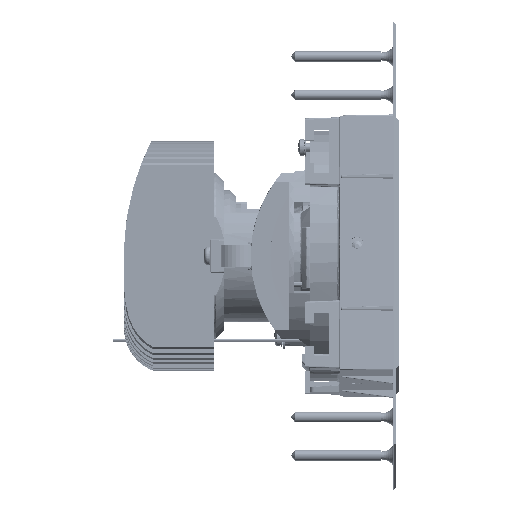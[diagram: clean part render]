
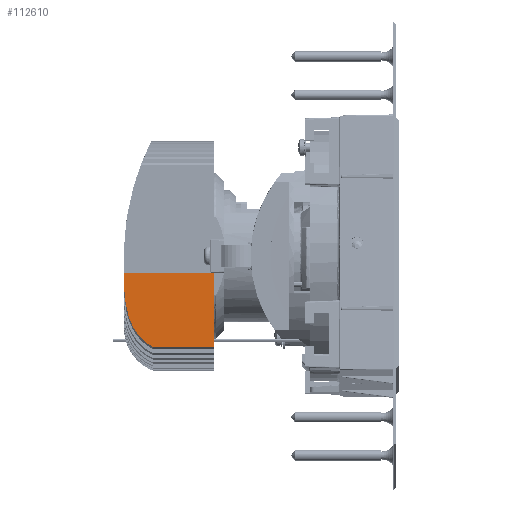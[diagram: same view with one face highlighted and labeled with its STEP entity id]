
A CAD part, front view. The second image highlights one B-rep face of the part: STEP entity #112610.
In plain terms, the highlighted planar face has unit normal (0, -1, 0).
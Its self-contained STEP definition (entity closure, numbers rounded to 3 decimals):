
#106429=CARTESIAN_POINT('Vertex',(53.25,-13.7,-108.9)) ;
#106432=CARTESIAN_POINT('Line Origine',(53.75,-13.7,-108.9)) ;
#106436=CARTESIAN_POINT('Vertex',(54.25,-13.7,-108.9)) ;
#112529=CARTESIAN_POINT('Axis2P3D Location',(54.25,-13.7,-153.4)) ;
#112534=CARTESIAN_POINT('Line Origine',(38.75,-13.7,-108.9)) ;
#112538=CARTESIAN_POINT('Vertex',(24.25,-13.7,-108.9)) ;
#112541=CARTESIAN_POINT('Line Origine',(24.25,-13.7,-109.222)) ;
#112545=CARTESIAN_POINT('Vertex',(24.25,-13.7,-109.545)) ;
#112549=CARTESIAN_POINT('Control Point',(24.25,-13.7,-109.545)) ;
#112550=CARTESIAN_POINT('Control Point',(24.25,-13.7,-110.401)) ;
#112551=CARTESIAN_POINT('Control Point',(24.254,-13.7,-111.252)) ;
#112552=CARTESIAN_POINT('Control Point',(24.264,-13.7,-112.095)) ;
#112553=CARTESIAN_POINT('Control Point',(24.308,-13.7,-113.928)) ;
#112554=CARTESIAN_POINT('Control Point',(24.41,-13.7,-115.737)) ;
#112555=CARTESIAN_POINT('Control Point',(24.487,-13.7,-116.703)) ;
#112556=CARTESIAN_POINT('Control Point',(24.649,-13.7,-118.205)) ;
#112557=CARTESIAN_POINT('Control Point',(24.886,-13.7,-119.681)) ;
#112558=CARTESIAN_POINT('Control Point',(24.982,-13.7,-120.212)) ;
#112559=CARTESIAN_POINT('Control Point',(25.189,-13.7,-121.22)) ;
#112560=CARTESIAN_POINT('Control Point',(25.439,-13.7,-122.212)) ;
#112561=CARTESIAN_POINT('Control Point',(25.569,-13.7,-122.682)) ;
#112562=CARTESIAN_POINT('Control Point',(25.845,-13.7,-123.592)) ;
#112563=CARTESIAN_POINT('Control Point',(26.164,-13.7,-124.478)) ;
#112564=CARTESIAN_POINT('Control Point',(26.331,-13.7,-124.906)) ;
#112565=CARTESIAN_POINT('Control Point',(26.76,-13.7,-125.927)) ;
#112566=CARTESIAN_POINT('Control Point',(27.247,-13.7,-126.898)) ;
#112567=CARTESIAN_POINT('Control Point',(27.555,-13.7,-127.45)) ;
#112568=CARTESIAN_POINT('Control Point',(28.2,-13.7,-128.499)) ;
#112569=CARTESIAN_POINT('Control Point',(28.912,-13.7,-129.457)) ;
#112570=CARTESIAN_POINT('Control Point',(29.282,-13.7,-129.909)) ;
#112571=CARTESIAN_POINT('Control Point',(30.049,-13.7,-130.765)) ;
#112572=CARTESIAN_POINT('Control Point',(30.874,-13.7,-131.526)) ;
#112573=CARTESIAN_POINT('Control Point',(31.299,-13.7,-131.882)) ;
#112574=CARTESIAN_POINT('Control Point',(32.053,-13.7,-132.454)) ;
#112575=CARTESIAN_POINT('Control Point',(32.839,-13.7,-132.95)) ;
#112576=CARTESIAN_POINT('Control Point',(33.176,-13.7,-133.146)) ;
#112577=CARTESIAN_POINT('Control Point',(33.518,-13.7,-133.327)) ;
#112578=CARTESIAN_POINT('Control Point',(33.865,-13.7,-133.496)) ;
#112579=CARTESIAN_POINT('Vertex',(33.865,-13.7,-133.496)) ;
#112582=CARTESIAN_POINT('Line Origine',(44.057,-13.7,-133.496)) ;
#112586=CARTESIAN_POINT('Vertex',(54.25,-13.7,-133.496)) ;
#112589=CARTESIAN_POINT('Line Origine',(54.25,-13.7,-125.831)) ;
#112593=CARTESIAN_POINT('Vertex',(54.25,-13.7,-118.165)) ;
#112596=CARTESIAN_POINT('Line Origine',(54.25,-13.7,-113.533)) ;
#106433=DIRECTION('Vector Direction',(-1.,0.,0.)) ;
#112530=DIRECTION('Axis2P3D Direction',(0.,-1.,0.)) ;
#112531=DIRECTION('Axis2P3D XDirection',(0.,0.,1.)) ;
#112535=DIRECTION('Vector Direction',(-1.,0.,0.)) ;
#112542=DIRECTION('Vector Direction',(0.,0.,1.)) ;
#112583=DIRECTION('Vector Direction',(-1.,0.,0.)) ;
#112590=DIRECTION('Vector Direction',(0.,0.,1.)) ;
#112597=DIRECTION('Vector Direction',(0.,0.,-1.)) ;
#112532=AXIS2_PLACEMENT_3D('Plane Axis2P3D',#112529,#112530,#112531) ;
#112602=ORIENTED_EDGE('',*,*,#112540,.T.) ;
#112603=ORIENTED_EDGE('',*,*,#112547,.F.) ;
#112604=ORIENTED_EDGE('',*,*,#112581,.T.) ;
#112605=ORIENTED_EDGE('',*,*,#112588,.F.) ;
#112606=ORIENTED_EDGE('',*,*,#112595,.T.) ;
#112607=ORIENTED_EDGE('',*,*,#112600,.F.) ;
#112608=ORIENTED_EDGE('',*,*,#106438,.T.) ;
#106434=VECTOR('Line Direction',#106433,1.) ;
#112536=VECTOR('Line Direction',#112535,1.) ;
#112543=VECTOR('Line Direction',#112542,1.) ;
#112584=VECTOR('Line Direction',#112583,1.) ;
#112591=VECTOR('Line Direction',#112590,1.) ;
#112598=VECTOR('Line Direction',#112597,1.) ;
#112610=ADVANCED_FACE('X.PP1CK.1\\32\\20\\MANIFOLD_SOLID_BREP #150553',(#112609),#112533,.T.) ;
#112548=B_SPLINE_CURVE_WITH_KNOTS('',5,(#112549,#112550,#112551,#112552,#112553,#112554,#112555,#112556,#112557,#112558,#112559,#112560,#112561,#112562,#112563,#112564,#112565,#112566,#112567,#112568,#112569,#112570,#112571,#112572,#112573,#112574,#112575,#112576,#112577,#112578),.UNSPECIFIED.,.F.,.U.,(6,3,3,3,3,3,3,3,3,6),(0.,5.422,11.804,15.417,18.731,21.911,26.471,30.978,35.475,38.753),.UNSPECIFIED.) ;
#106438=EDGE_CURVE('',#106437,#106430,#106435,.T.) ;
#112540=EDGE_CURVE('',#106430,#112539,#112537,.T.) ;
#112547=EDGE_CURVE('',#112546,#112539,#112544,.T.) ;
#112581=EDGE_CURVE('',#112546,#112580,#112548,.T.) ;
#112588=EDGE_CURVE('',#112587,#112580,#112585,.T.) ;
#112595=EDGE_CURVE('',#112587,#112594,#112592,.T.) ;
#112600=EDGE_CURVE('',#106437,#112594,#112599,.T.) ;
#112601=EDGE_LOOP('',(#112602,#112603,#112604,#112605,#112606,#112607,#112608)) ;
#112609=FACE_OUTER_BOUND('',#112601,.T.) ;
#106435=LINE('Line',#106432,#106434) ;
#112537=LINE('Line',#112534,#112536) ;
#112544=LINE('Line',#112541,#112543) ;
#112585=LINE('Line',#112582,#112584) ;
#112592=LINE('Line',#112589,#112591) ;
#112599=LINE('Line',#112596,#112598) ;
#112533=PLANE('',#112532) ;
#106430=VERTEX_POINT('',#106429) ;
#106437=VERTEX_POINT('',#106436) ;
#112539=VERTEX_POINT('',#112538) ;
#112546=VERTEX_POINT('',#112545) ;
#112580=VERTEX_POINT('',#112579) ;
#112587=VERTEX_POINT('',#112586) ;
#112594=VERTEX_POINT('',#112593) ;
